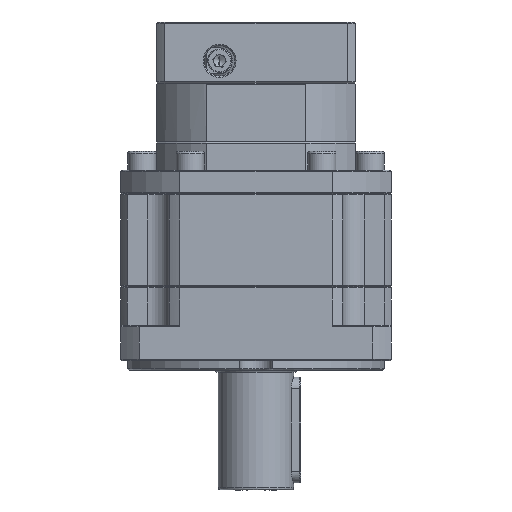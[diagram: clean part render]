
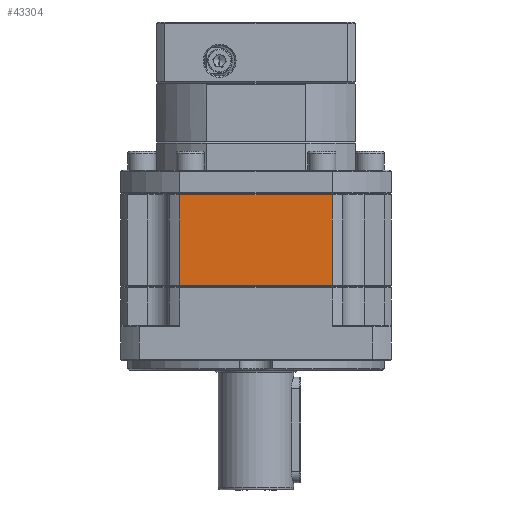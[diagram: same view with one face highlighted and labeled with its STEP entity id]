
A CAD part, front view. The second image highlights one B-rep face of the part: STEP entity #43304.
In plain terms, the highlighted planar face has unit normal (0, -1, 0).
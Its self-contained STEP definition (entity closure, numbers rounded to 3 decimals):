
#1231 = CARTESIAN_POINT ( 'NONE',  ( 78.155, 13.713, -85.148 ) ) ;
#5238 = VERTEX_POINT ( 'NONE', #52453 ) ;
#10753 = DIRECTION ( 'NONE',  ( 1., 0., 0. ) ) ;
#14920 = VECTOR ( 'NONE', #10753, 1000. ) ;
#17542 = DIRECTION ( 'NONE',  ( -1., 0., 0. ) ) ;
#18927 = LINE ( 'NONE', #98294, #23779 ) ;
#19843 = CARTESIAN_POINT ( 'NONE',  ( 78.155, 13.713, -123.648 ) ) ;
#21075 = EDGE_CURVE ( 'NONE', #111424, #81404, #22245, .T. ) ;
#22245 = LINE ( 'NONE', #84830, #130622 ) ;
#23779 = VECTOR ( 'NONE', #34971, 1000. ) ;
#26734 = CARTESIAN_POINT ( 'NONE',  ( 103.255, 13.713, -84.648 ) ) ;
#29328 = VECTOR ( 'NONE', #49102, 1000. ) ;
#34971 = DIRECTION ( 'NONE',  ( 0., 0., 1. ) ) ;
#39604 = AXIS2_PLACEMENT_3D ( 'NONE', #26734, #100180, #17542 ) ;
#43304 = ADVANCED_FACE ( 'NONE', ( #105657 ), #110738, .F. ) ;
#46518 = ORIENTED_EDGE ( 'NONE', *, *, #123001, .F. ) ;
#48166 = EDGE_CURVE ( 'NONE', #81404, #91497, #60379, .T. ) ;
#49102 = DIRECTION ( 'NONE',  ( -1., 0., 0. ) ) ;
#52453 = CARTESIAN_POINT ( 'NONE',  ( 13.355, 13.713, -85.148 ) ) ;
#60379 = LINE ( 'NONE', #80309, #29328 ) ;
#69352 = ORIENTED_EDGE ( 'NONE', *, *, #84960, .F. ) ;
#71649 = CARTESIAN_POINT ( 'NONE',  ( 45.755, 13.713, -85.148 ) ) ;
#78406 = ORIENTED_EDGE ( 'NONE', *, *, #48166, .F. ) ;
#80309 = CARTESIAN_POINT ( 'NONE',  ( 103.255, 13.713, -123.648 ) ) ;
#81404 = VERTEX_POINT ( 'NONE', #19843 ) ;
#84830 = CARTESIAN_POINT ( 'NONE',  ( 78.155, 13.713, -84.648 ) ) ;
#84960 = EDGE_CURVE ( 'NONE', #5238, #111424, #102019, .T. ) ;
#91427 = CARTESIAN_POINT ( 'NONE',  ( 13.355, 13.713, -123.648 ) ) ;
#91497 = VERTEX_POINT ( 'NONE', #91427 ) ;
#98294 = CARTESIAN_POINT ( 'NONE',  ( 13.355, 13.713, -84.648 ) ) ;
#99491 = ORIENTED_EDGE ( 'NONE', *, *, #21075, .F. ) ;
#100180 = DIRECTION ( 'NONE',  ( 0., 1., 0. ) ) ;
#102019 = LINE ( 'NONE', #71649, #14920 ) ;
#105657 = FACE_OUTER_BOUND ( 'NONE', #133481, .T. ) ;
#107796 = DIRECTION ( 'NONE',  ( 0., 0., -1. ) ) ;
#110738 = PLANE ( 'NONE',  #39604 ) ;
#111424 = VERTEX_POINT ( 'NONE', #1231 ) ;
#123001 = EDGE_CURVE ( 'NONE', #91497, #5238, #18927, .T. ) ;
#130622 = VECTOR ( 'NONE', #107796, 1000. ) ;
#133481 = EDGE_LOOP ( 'NONE', ( #78406, #99491, #69352, #46518 ) ) ;
